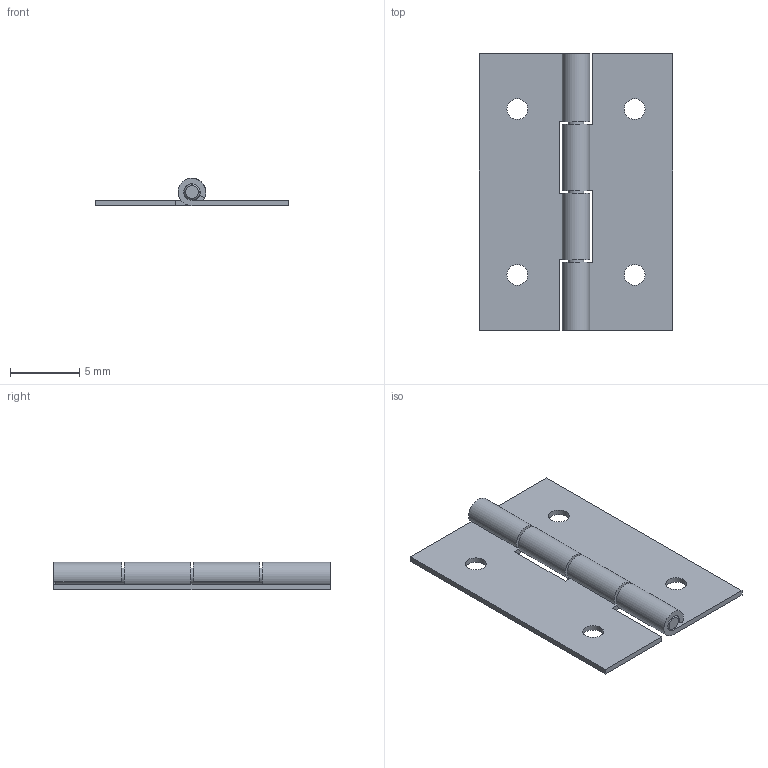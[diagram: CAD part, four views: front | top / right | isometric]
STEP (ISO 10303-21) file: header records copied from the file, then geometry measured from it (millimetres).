
FILE_DESCRIPTION(/* description */ ('Unknown'),/* implementation_level */ '2;1');
FILE_NAME(/* name */ '6218.04.02',/* time_stamp */ '2023-10-10T13:16:01+02:00',/* author */ ('Unknown'),/* organization */ ('Unknown'),/* preprocessor_version */ 'ST-DEVELOPER v16.7',/* originating_system */ 'DEX',/* authorisation */ $);
FILE_SCHEMA (('AUTOMOTIVE_DESIGN {1 0 10303 214 3 1 1}'));
Length unit declared in the file: millimetre
Products named in the file (3): 6218.04.02; Stift-20mm
Assembly tree (3 placements, depth 2):
  6218.04.02
    6218.04.02  x2
    Stift-20mm
Bounding box: 14 x 20 x 2 mm (x, y, z)
Volume: 151.8 mm3; surface area: 795.1 mm2
Topology: 3 solids, 3 shells, 41 faces, 107 edges, 72 vertices
Faces by surface type: plane 26, cylinder 13, cone 2
Full cylindrical faces by diameter (mm): 1.15 x1, 1.5 x4
Entity records: 736 total; most frequent: DIRECTION 120, CARTESIAN_POINT 113, ORIENTED_EDGE 100, EDGE_CURVE 50, AXIS2_PLACEMENT_3D 43, VERTEX_POINT 36, LINE 34, VECTOR 34
